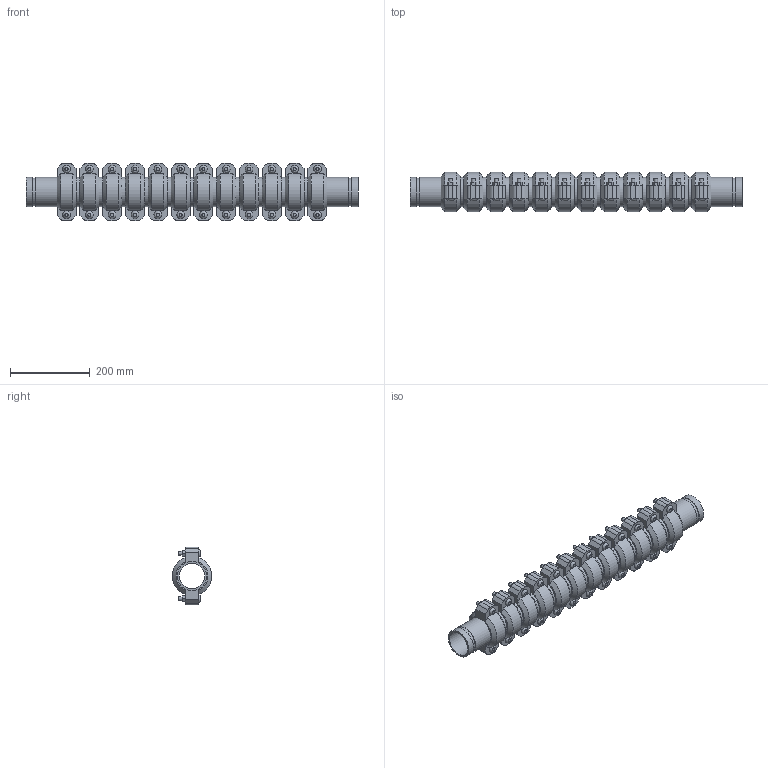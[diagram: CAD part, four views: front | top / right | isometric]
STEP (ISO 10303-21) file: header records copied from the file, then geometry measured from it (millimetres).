
FILE_DESCRIPTION(/* description */ ('VIC SS EXPANSION JOINT 12 COUPLINGS COMPRESSED STYLE 155P (OGS) (POTABLE WATER) ','CAx-IF Rec.Pracs.---Representation and Presentation of Product Manufacturing Information (PMI)---4.0---2014-10-13'),/* implementation_level */ '2;1');
FILE_NAME(/* name */ 'C:\Users\kkamble\AppData\Roaming\Autodesk\ApplicationPlugins\Victaulic.Temp\A528\Victaulic_SS_Expansion Joint_Compressed_12 Couplings_Style 155P (OGS)-Potable Water_12 Coup_Comp_2.5 (65).stp',/* time_stamp */ '2021-07-16T17:08:06+06:00',/* author */ ('kkamble'),/* organization */ ('Victaulic'),/* preprocessor_version */ 'ST-DEVELOPER v17.2',/* originating_system */ 'Autodesk Inventor 2019',/* authorisation */ '');
FILE_SCHEMA (('AP242_MANAGED_MODEL_BASED_3D_ENGINEERING_MIM_LF { 1 0 10303 442 1 1 4 }'));
Length unit declared in the file: inch
Products named in the file (4): 155P-02.5; Nipple-02.5; Nipple-02.5_1; 075-02.5
Assembly tree (25 placements, depth 2):
  155P-02.5
    Nipple-02.5  x2
    Nipple-02.5_1  x11
    075-02.5  x12
Bounding box: 831.85 x 98.22 x 144.27 mm (x, y, z)
Volume: 3335407.6 mm3; surface area: 915603.2 mm2
Topology: 25 solids, 49 shells, 792 faces, 1914 edges, 1344 vertices
Faces by surface type: plane 486, cylinder 234, cone 48, bspline 24
Full cylindrical faces by diameter (mm): 9.525 x48, 11.43 x24, 63.475 x13, 69.088 x26, 73.025 x51
Entity records: 2801 total; most frequent: CARTESIAN_POINT 495, DIRECTION 475, ORIENTED_EDGE 374, AXIS2_PLACEMENT_3D 192, EDGE_CURVE 187, VERTEX_POINT 134, EDGE_LOOP 101, LINE 91
